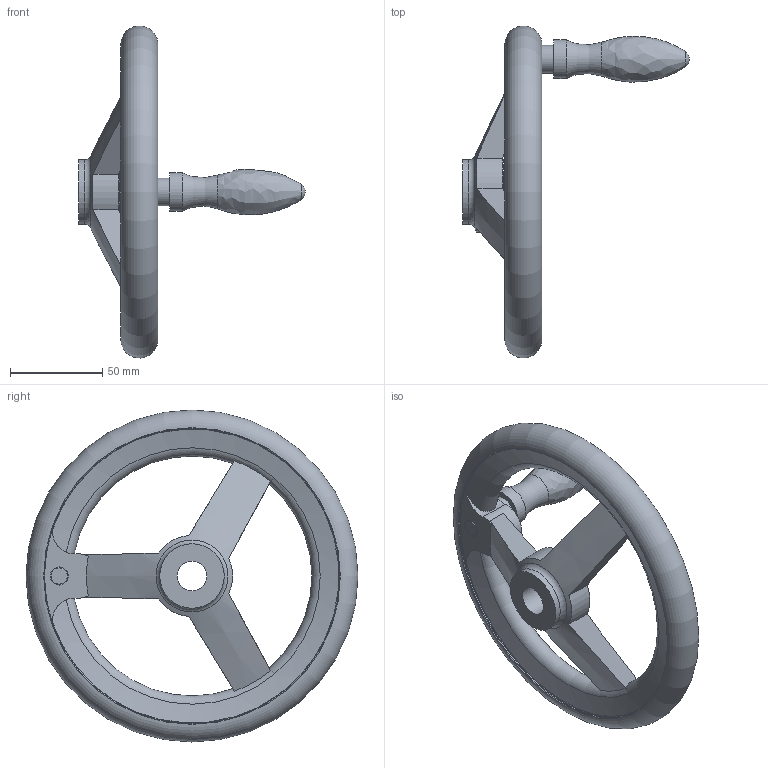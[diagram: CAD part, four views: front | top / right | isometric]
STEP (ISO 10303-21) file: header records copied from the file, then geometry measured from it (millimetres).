
FILE_DESCRIPTION( ( 'STEP AP203' ), '1' );
FILE_NAME( 'C:/Temp/Ganter_Step_05_03_2020/data/1_3/din_950/din_950_b/din_950_b_d/Handwheel DIN 950-AL-180-B16-D.stp', '2020-03-05T10:29:45', ( 'License CC BY-ND 4.0' ), ( 'CADENAS' ), ' ', 'PARTsolutions', ' ' );
FILE_SCHEMA( ( 'CONFIG_CONTROL_DESIGN' ) );
Length unit declared in the file: millimetre
Products named in the file (1): _Handwheel DIN 950-AL-180-B16-D
Bounding box: 123 x 179.98 x 179.98 mm (x, y, z)
Volume: 260671 mm3; surface area: 55538.6 mm2
Topology: 1 solids, 1 shells, 44 faces, 119 edges, 75 vertices
Faces by surface type: cylinder 13, plane 12, torus 11, cone 6, bspline 1, sphere 1
Full cylindrical faces by diameter (mm): 15 x1, 16 x1, 21 x1, 35 x2, 160 x2
Entity records: 1689 total; most frequent: CARTESIAN_POINT 670, DIRECTION 196, ORIENTED_EDGE 184, AXIS2_PLACEMENT_3D 93, EDGE_CURVE 92, EDGE_LOOP 71, VERTEX_POINT 71, FACE_OUTER_BOUND 60
